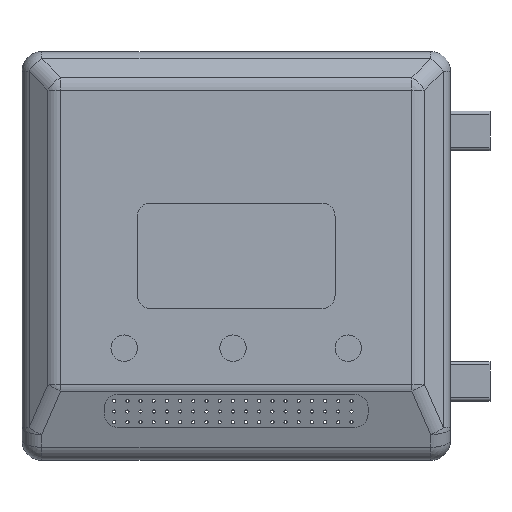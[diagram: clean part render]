
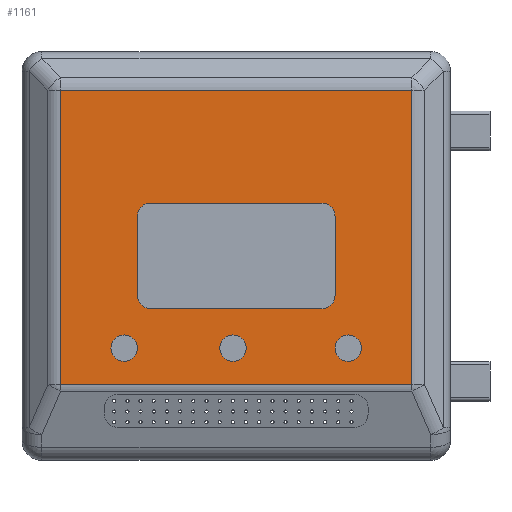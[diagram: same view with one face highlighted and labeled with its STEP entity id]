
A CAD part, top view. The second image highlights one B-rep face of the part: STEP entity #1161.
In plain terms, the highlighted planar face has unit normal (0, 0, 1).
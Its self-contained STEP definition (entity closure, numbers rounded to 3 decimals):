
#1161=ADVANCED_FACE('',(#1740,#1741,#1742,#1743,#1744),#1573,.T.);
#1573=PLANE('',#7818);
#1740=FACE_BOUND('',#2108,.T.);
#1741=FACE_BOUND('',#2109,.T.);
#1742=FACE_BOUND('',#2110,.T.);
#1743=FACE_BOUND('',#2111,.T.);
#1744=FACE_BOUND('',#2112,.T.);
#2108=EDGE_LOOP('',(#3313));
#2109=EDGE_LOOP('',(#3314));
#2110=EDGE_LOOP('',(#3315));
#2111=EDGE_LOOP('',(#3316,#3317,#3318,#3319));
#2112=EDGE_LOOP('',(#3320,#3321,#3322,#3323,#3324,#3325,#3326,#3327));
#2788=CIRCLE('',#7811,2.);
#2789=CIRCLE('',#7812,2.);
#2790=CIRCLE('',#7813,2.);
#2791=CIRCLE('',#7814,2.);
#2792=CIRCLE('',#7815,2.);
#2793=CIRCLE('',#7816,2.);
#2794=CIRCLE('',#7817,2.);
#3313=ORIENTED_EDGE('',*,*,#5972,.T.);
#3314=ORIENTED_EDGE('',*,*,#5973,.T.);
#3315=ORIENTED_EDGE('',*,*,#5974,.T.);
#3316=ORIENTED_EDGE('',*,*,#5975,.T.);
#3317=ORIENTED_EDGE('',*,*,#5976,.T.);
#3318=ORIENTED_EDGE('',*,*,#5977,.T.);
#3319=ORIENTED_EDGE('',*,*,#5978,.T.);
#3320=ORIENTED_EDGE('',*,*,#5979,.T.);
#3321=ORIENTED_EDGE('',*,*,#5980,.T.);
#3322=ORIENTED_EDGE('',*,*,#5981,.T.);
#3323=ORIENTED_EDGE('',*,*,#5982,.T.);
#3324=ORIENTED_EDGE('',*,*,#5983,.T.);
#3325=ORIENTED_EDGE('',*,*,#5984,.T.);
#3326=ORIENTED_EDGE('',*,*,#5985,.T.);
#3327=ORIENTED_EDGE('',*,*,#5986,.T.);
#5240=VERTEX_POINT('',#10725);
#5241=VERTEX_POINT('',#10727);
#5242=VERTEX_POINT('',#10729);
#5243=VERTEX_POINT('',#10731);
#5244=VERTEX_POINT('',#10732);
#5245=VERTEX_POINT('',#10734);
#5246=VERTEX_POINT('',#10736);
#5247=VERTEX_POINT('',#10739);
#5248=VERTEX_POINT('',#10740);
#5249=VERTEX_POINT('',#10742);
#5250=VERTEX_POINT('',#10744);
#5251=VERTEX_POINT('',#10746);
#5252=VERTEX_POINT('',#10748);
#5253=VERTEX_POINT('',#10750);
#5254=VERTEX_POINT('',#10752);
#5972=EDGE_CURVE('',#5240,#5240,#2788,.T.);
#5973=EDGE_CURVE('',#5241,#5241,#2789,.T.);
#5974=EDGE_CURVE('',#5242,#5242,#2790,.T.);
#5975=EDGE_CURVE('',#5243,#5244,#6885,.T.);
#5976=EDGE_CURVE('',#5244,#5245,#6886,.T.);
#5977=EDGE_CURVE('',#5245,#5246,#6887,.T.);
#5978=EDGE_CURVE('',#5246,#5243,#6888,.T.);
#5979=EDGE_CURVE('',#5247,#5248,#6889,.T.);
#5980=EDGE_CURVE('',#5248,#5249,#2791,.T.);
#5981=EDGE_CURVE('',#5249,#5250,#6890,.T.);
#5982=EDGE_CURVE('',#5250,#5251,#2792,.T.);
#5983=EDGE_CURVE('',#5251,#5252,#6891,.T.);
#5984=EDGE_CURVE('',#5252,#5253,#2793,.T.);
#5985=EDGE_CURVE('',#5253,#5254,#6892,.T.);
#5986=EDGE_CURVE('',#5254,#5247,#2794,.T.);
#6885=LINE('',#10730,#7332);
#6886=LINE('',#10733,#7333);
#6887=LINE('',#10735,#7334);
#6888=LINE('',#10737,#7335);
#6889=LINE('',#10738,#7336);
#6890=LINE('',#10743,#7337);
#6891=LINE('',#10747,#7338);
#6892=LINE('',#10751,#7339);
#7332=VECTOR('',#8750,1.);
#7333=VECTOR('',#8751,1.);
#7334=VECTOR('',#8752,1.);
#7335=VECTOR('',#8753,1.);
#7336=VECTOR('',#8754,1.);
#7337=VECTOR('',#8757,1.);
#7338=VECTOR('',#8760,1.);
#7339=VECTOR('',#8763,1.);
#7811=AXIS2_PLACEMENT_3D('',#10724,#8744,#8745);
#7812=AXIS2_PLACEMENT_3D('',#10726,#8746,#8747);
#7813=AXIS2_PLACEMENT_3D('',#10728,#8748,#8749);
#7814=AXIS2_PLACEMENT_3D('',#10741,#8755,#8756);
#7815=AXIS2_PLACEMENT_3D('',#10745,#8758,#8759);
#7816=AXIS2_PLACEMENT_3D('',#10749,#8761,#8762);
#7817=AXIS2_PLACEMENT_3D('',#10753,#8764,#8765);
#7818=AXIS2_PLACEMENT_3D('',#10754,#8766,#8767);
#8744=DIRECTION('',(0.,0.,-1.));
#8745=DIRECTION('',(1.,0.,0.));
#8746=DIRECTION('',(0.,0.,-1.));
#8747=DIRECTION('',(1.,0.,0.));
#8748=DIRECTION('',(0.,0.,-1.));
#8749=DIRECTION('',(1.,0.,0.));
#8750=DIRECTION('',(-1.,0.,0.));
#8751=DIRECTION('',(0.,-1.,0.));
#8752=DIRECTION('',(1.,0.,0.));
#8753=DIRECTION('',(0.,1.,0.));
#8754=DIRECTION('',(0.,-1.,0.));
#8755=DIRECTION('',(0.,0.,-1.));
#8756=DIRECTION('',(1.,0.,0.));
#8757=DIRECTION('',(-1.,0.,0.));
#8758=DIRECTION('',(0.,0.,-1.));
#8759=DIRECTION('',(1.,0.,0.));
#8760=DIRECTION('',(0.,1.,0.));
#8761=DIRECTION('',(0.,0.,-1.));
#8762=DIRECTION('',(1.,0.,0.));
#8763=DIRECTION('',(1.,0.,0.));
#8764=DIRECTION('',(0.,0.,-1.));
#8765=DIRECTION('',(1.,0.,0.));
#8766=DIRECTION('',(0.,0.,1.));
#8767=DIRECTION('',(1.,0.,0.));
#10724=CARTESIAN_POINT('',(-17.,-14.,18.));
#10725=CARTESIAN_POINT('',(-15.,-14.,18.));
#10726=CARTESIAN_POINT('',(-0.492,-14.,18.));
#10727=CARTESIAN_POINT('',(1.508,-14.,18.));
#10728=CARTESIAN_POINT('',(17.,-14.,18.));
#10729=CARTESIAN_POINT('',(19.,-14.,18.));
#10730=CARTESIAN_POINT('',(0.,25.141,18.));
#10731=CARTESIAN_POINT('',(26.641,25.141,18.));
#10732=CARTESIAN_POINT('',(-26.641,25.141,18.));
#10733=CARTESIAN_POINT('',(-26.641,0.,18.));
#10734=CARTESIAN_POINT('',(-26.641,-19.481,18.));
#10735=CARTESIAN_POINT('',(0.,-19.481,18.));
#10736=CARTESIAN_POINT('',(26.641,-19.481,18.));
#10737=CARTESIAN_POINT('',(26.641,0.,18.));
#10738=CARTESIAN_POINT('',(15.,0.,18.));
#10739=CARTESIAN_POINT('',(15.,6.,18.));
#10740=CARTESIAN_POINT('',(15.,-6.,18.));
#10741=CARTESIAN_POINT('',(13.,-6.,18.));
#10742=CARTESIAN_POINT('',(13.,-8.,18.));
#10743=CARTESIAN_POINT('',(0.,-8.,18.));
#10744=CARTESIAN_POINT('',(-13.,-8.,18.));
#10745=CARTESIAN_POINT('',(-13.,-6.,18.));
#10746=CARTESIAN_POINT('',(-15.,-6.,18.));
#10747=CARTESIAN_POINT('',(-15.,0.,18.));
#10748=CARTESIAN_POINT('',(-15.,6.,18.));
#10749=CARTESIAN_POINT('',(-13.,6.,18.));
#10750=CARTESIAN_POINT('',(-13.,8.,18.));
#10751=CARTESIAN_POINT('',(0.,8.,18.));
#10752=CARTESIAN_POINT('',(13.,8.,18.));
#10753=CARTESIAN_POINT('',(13.,6.,18.));
#10754=CARTESIAN_POINT('',(0.,0.,18.));
